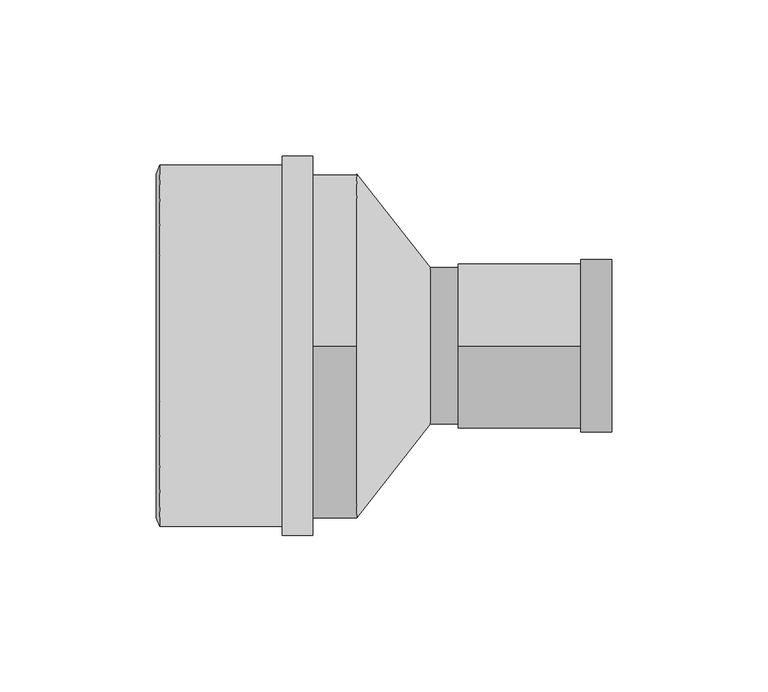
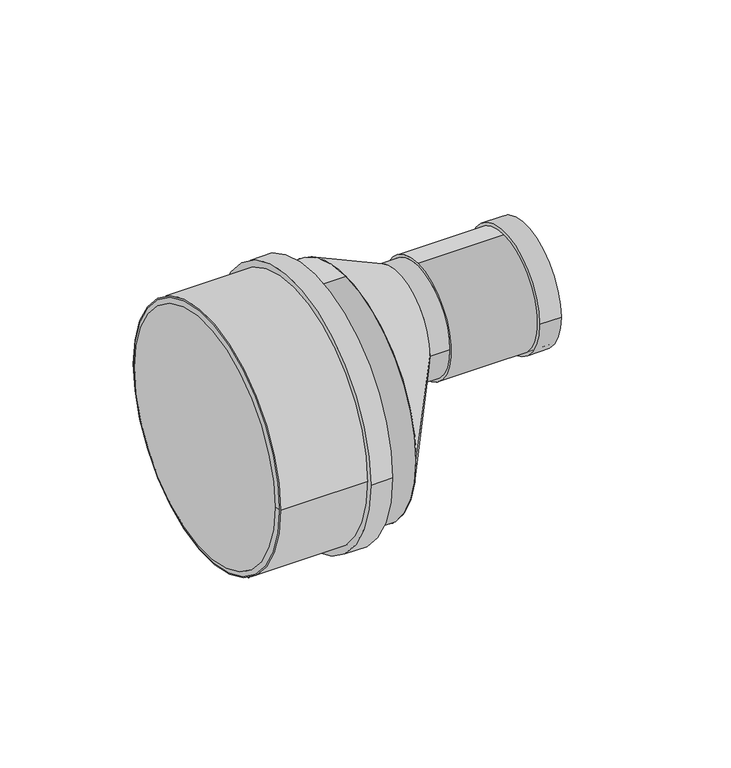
"""IFC4 building model written with IfcOpenShell, lengths in millimetres: pipe fitting geometry, Superdrain HTR-Reducer : Superdrain HTR-Reducer."""

from ifc_helpers import new_model, si_unit, point, frame, frame_2d, origin, origin_2d, place, context, project, spatial, polyline, circle_curve, trimmed, segment, composite_curve, outline, extrude, source, transform, mapped, element, save
from ifc_brep_helpers import plane_surface, revolved_surface, spline_surface, advanced_brep


def pipe_fitting_8a57347c(model_context):
    return source(origin(), model_context, "Body", "SolidModel", [
        extrude(outline(composite_curve([segment(trimmed(circle_curve(frame_2d((0.0, 0.1450234)), 57.75), [point((57.75, 0.1450234))], [point((-57.75, 0.1450234))], False, "CARTESIAN"), True, "CONTINUOUS"), segment(trimmed(circle_curve(frame_2d((0.0, 0.1450234)), 57.75), [point((-57.75, 0.1450234))], [point((57.75, 0.1450234))], False, "CARTESIAN"), True, "CONTINUOUS")], self_intersect=False), holes=[composite_curve([segment(trimmed(circle_curve(frame_2d((0.0, 0.1450234)), 55.0), [point((55.0, 0.1450234))], [point((-55.0, 0.1450234))], True, "CARTESIAN"), True, "CONTINUOUS"), segment(trimmed(circle_curve(frame_2d((0.0, 0.1450234)), 55.0), [point((-55.0, 0.1450234))], [point((55.0, 0.1450234))], True, "CARTESIAN"), True, "CONTINUOUS")], self_intersect=False)]), frame((-63.0, 0.0, 0.0), z_axis=(1.0, 0.0, 0.0), x_axis=(0.0, 1.0, 0.0)), (0.0, 0.0, 1.0), 49.0),
        extrude(outline(composite_curve([segment(trimmed(circle_curve(frame_2d((0.0, 0.1450234)), 60.6375), [point((60.6375, 0.1450234))], [point((-60.6375, 0.1450234))], False, "CARTESIAN"), True, "CONTINUOUS"), segment(trimmed(circle_curve(frame_2d((0.0, 0.1450234)), 60.6375), [point((-60.6375, 0.1450234))], [point((60.6375, 0.1450234))], False, "CARTESIAN"), True, "CONTINUOUS")], self_intersect=False), holes=[composite_curve([segment(trimmed(circle_curve(frame_2d((0.0, 0.1450234)), 55.0), [point((55.0, 0.1450234))], [point((-55.0, 0.1450234))], True, "CARTESIAN"), True, "CONTINUOUS"), segment(trimmed(circle_curve(frame_2d((0.0, 0.1450234)), 55.0), [point((-55.0, 0.1450234))], [point((55.0, 0.1450234))], True, "CARTESIAN"), True, "CONTINUOUS")], self_intersect=False)]), frame((-23.8, 0.0, 0.0), z_axis=(1.0, 0.0, 0.0), x_axis=(0.0, 1.0, 0.0)), (0.0, 0.0, 1.0), 9.8),
        advanced_brep(
        [(-64.0, 55.0, 0.1450234), (-64.0, -55.0, 0.1450234), (-63.0, 57.75, 0.1450234), (-63.0, -57.75, 0.1450234)],
        [
            (0, 1, circle_curve(frame((-64.0, 0.0, 0.1450234), z_axis=(-1.0, 0.0, 0.0), x_axis=(0.0, 1.0, 0.0)), 55.0)),
            (1, 0, circle_curve(frame((-64.0, 0.0, 0.1450234), z_axis=(-1.0, 0.0, 0.0), x_axis=(0.0, -1.0, 0.0)), 55.0)),
            (2, 3, circle_curve(frame((-63.0, 0.0, 0.1450234), z_axis=(1.0, 0.0, 0.0), x_axis=(0.0, -1.0, 0.0)), 57.75)),
            (3, 2, circle_curve(frame((-63.0, 0.0, 0.1450234), z_axis=(1.0, 0.0, 0.0), x_axis=(0.0, 1.0, 0.0)), 57.75)),
            (3, 1),
            (0, 2),
        ],
        [
            plane_surface(frame((-64.0, 0.0, 0.1450234), z_axis=(-1.0, 0.0, 0.0), x_axis=(0.0, 0.0, -1.0))),
            plane_surface(frame((-63.0, 0.0, 0.1450234), z_axis=(1.0, 0.0, 0.0), x_axis=(0.0, 0.0, -1.0))),
            revolved_surface(polyline([(-64.0, 55.0, 0.1450234), (-63.0, 57.75, 0.1450234)]), (-84.0, 0.0, 0.1450234), (1.0, 0.0, 0.0)),
            revolved_surface(polyline([(-64.0, -55.0, 0.1450234), (-63.0, -57.75, 0.1450234)]), (-84.0, 0.0, 0.1450234), (1.0, 0.0, 0.0)),
        ],
        [
            (0, [[1, 2]]),
            (1, [[3, 4]]),
            (2, [[-4, 5, -1, 6]]),
            (3, [[-3, -6, -2, -5]]),
        ],
    ),
        advanced_brep(
        [(23.5, -25.0, 23.5), (23.5, 25.0, 23.5), (0.0, -55.0, 0.0), (0.0, 55.0, 0.0)],
        [
            (0, 1, circle_curve(frame((23.5, 0.0, 23.5), z_axis=(1.0, 0.0, 0.0), x_axis=(0.0, 1.0, 0.0)), 25.0)),
            (1, 0, circle_curve(frame((23.5, 0.0, 23.5), z_axis=(1.0, 0.0, 0.0), x_axis=(0.0, 1.0, 0.0)), 25.0)),
            (2, 3, circle_curve(frame((0.0, 0.0, 0.0), z_axis=(-1.0, 0.0, 0.0), x_axis=(0.0, 1.0, 0.0)), 55.0)),
            (3, 2, circle_curve(frame((0.0, 0.0, 0.0), z_axis=(-1.0, 0.0, 0.0), x_axis=(0.0, 1.0, 0.0)), 55.0)),
            (3, 1),
            (0, 2),
        ],
        [
            plane_surface(frame((23.5, 0.0, 23.5), z_axis=(1.0, 0.0, 0.0), x_axis=(0.0, 0.0, -1.0))),
            plane_surface(frame((0.0, 0.0, 0.0), z_axis=(-1.0, 0.0, 0.0), x_axis=(0.0, 0.0, -1.0))),
            spline_surface(2, 1, [[(0.0, -55.0, 0.0), (23.5, -25.0, 23.5)], [(0.0, -55.0, -55.0), (23.5, -25.0, -1.5)], [(0.0, 0.0, -55.0), (23.5, 0.0, -1.5)], [(0.0, 55.0, -55.0), (23.5, 25.0, -1.5)], [(0.0, 55.0, 0.0), (23.5, 25.0, 23.5)]], [3, 2, 3], [2, 2], [0.0, 1.0, 2.0], [0.0, 1.0], weights=[[1.0, 1.0], [0.7071067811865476, 0.7071067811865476], [1.0, 1.0], [0.7071067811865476, 0.7071067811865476], [1.0, 1.0]]),
            spline_surface(2, 1, [[(0.0, 55.0, 0.0), (23.5, 25.0, 23.5)], [(0.0, 55.0, 55.0), (23.5, 25.0, 48.5)], [(0.0, 0.0, 55.0), (23.5, 0.0, 48.5)], [(0.0, -55.0, 55.0), (23.5, -25.0, 48.5)], [(0.0, -55.0, 0.0), (23.5, -25.0, 23.5)]], [3, 2, 3], [2, 2], [0.0, 1.0, 2.0], [0.0, 1.0], weights=[[1.0, 1.0], [0.7071067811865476, 0.7071067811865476], [1.0, 1.0], [0.7071067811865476, 0.7071067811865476], [1.0, 1.0]]),
        ],
        [
            (0, [[1, 2]]),
            (1, [[3, 4]]),
            (2, [[-4, 5, -1, 6]]),
            (3, [[-3, -6, -2, -5]]),
        ],
    ),
        extrude(outline(composite_curve([segment(trimmed(circle_curve(frame_2d((0.0, 23.5)), 25.0), [point((-25.0, 23.5))], [point((25.0, 23.5))], False, "CARTESIAN"), True, "CONTINUOUS"), segment(trimmed(circle_curve(frame_2d((0.0, 23.5)), 25.0), [point((25.0, 23.5))], [point((-25.0, 23.5))], False, "CARTESIAN"), True, "CONTINUOUS")], self_intersect=False)), frame((23.5, 0.0, 0.0), z_axis=(1.0, 0.0, 0.0), x_axis=(0.0, 1.0, 0.0)), (0.0, 0.0, 1.0), 9.0),
        extrude(outline(composite_curve([segment(trimmed(circle_curve(frame_2d((0.0, 23.5)), 27.5625), [point((-27.5625, 23.5))], [point((27.5625, 23.5))], False, "CARTESIAN"), True, "CONTINUOUS"), segment(trimmed(circle_curve(frame_2d((0.0, 23.5)), 27.5625), [point((27.5625, 23.5))], [point((-27.5625, 23.5))], False, "CARTESIAN"), True, "CONTINUOUS")], self_intersect=False), holes=[composite_curve([segment(trimmed(circle_curve(frame_2d((0.0, 23.5)), 25.0), [point((25.0, 23.5))], [point((-25.0, 23.5))], True, "CARTESIAN"), True, "CONTINUOUS"), segment(trimmed(circle_curve(frame_2d((0.0, 23.5)), 25.0), [point((-25.0, 23.5))], [point((25.0, 23.5))], True, "CARTESIAN"), True, "CONTINUOUS")], self_intersect=False)]), frame((71.7, 0.0, 0.0), z_axis=(1.0, 0.0, 0.0), x_axis=(0.0, 1.0, 0.0)), (0.0, 0.0, 1.0), 9.8),
        extrude(outline(composite_curve([segment(trimmed(circle_curve(frame_2d((0.0, 23.5)), 26.25), [point((0.0, 49.75))], [point((0.0, -2.75))], False, "CARTESIAN"), True, "CONTINUOUS"), segment(trimmed(circle_curve(frame_2d((0.0, 23.5)), 26.25), [point((0.0, -2.75))], [point((0.0, 49.75))], False, "CARTESIAN"), True, "CONTINUOUS")], self_intersect=False), holes=[composite_curve([segment(trimmed(circle_curve(frame_2d((0.0, 23.5)), 25.0), [point((25.0, 23.5))], [point((-25.0, 23.5))], True, "CARTESIAN"), True, "CONTINUOUS"), segment(trimmed(circle_curve(frame_2d((0.0, 23.5)), 25.0), [point((-25.0, 23.5))], [point((25.0, 23.5))], True, "CARTESIAN"), True, "CONTINUOUS")], self_intersect=False)]), frame((32.5, 0.0, 0.0), z_axis=(1.0, 0.0, 0.0), x_axis=(0.0, 1.0, 0.0)), (0.0, 0.0, 1.0), 49.0),
        extrude(outline(composite_curve([segment(trimmed(circle_curve(origin_2d(), 55.0), [point((0.0, 55.0))], [point((0.0, -55.0))], False, "CARTESIAN"), True, "CONTINUOUS"), segment(trimmed(circle_curve(origin_2d(), 55.0), [point((0.0, -55.0))], [point((0.0, 55.0))], False, "CARTESIAN"), True, "CONTINUOUS")], self_intersect=False)), frame((-63.0, 0.0, 0.0), z_axis=(1.0, 0.0, 0.0), x_axis=(0.0, 1.0, 0.0)), (0.0, 0.0, 1.0), 63.0),
    ])


if __name__ == "__main__":
    model = new_model("IFC4")
    model_context = context("Model", 3, world=origin())
    ifc_project = project(units=[si_unit("LENGTHUNIT", "METRE", prefix="MILLI")], contexts=[model_context])
    site = spatial("IfcSite", under=ifc_project)
    building = spatial("IfcBuilding", under=site)
    placement = place(None, origin())
    pipe_fitting_shape = pipe_fitting_8a57347c(model_context)
    element("IfcPipeFitting", 1, ObjectType="Superdrain HTR-Reducer : Superdrain HTR-Reducer", at=placement, inside=building, context=model_context, shape_type="MappedRepresentation", body=[
        mapped(pipe_fitting_shape, transform((0.0, 0.0, 0.0), x_axis=(1.0, 0.0, 0.0), y_axis=(0.0, 1.0, 0.0), z_axis=(0.0, 0.0, 1.0))),
    ])
    save(model, "model.ifc")
